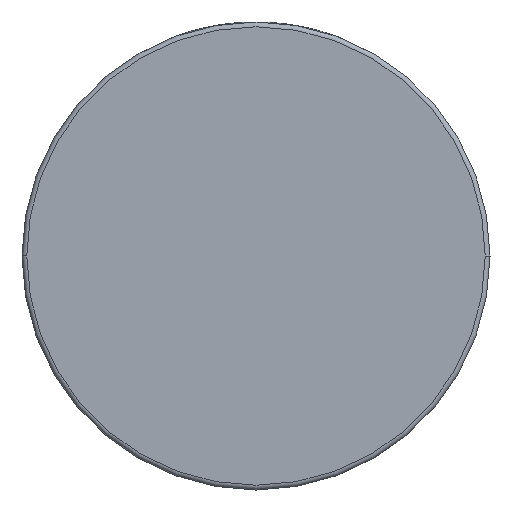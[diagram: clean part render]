
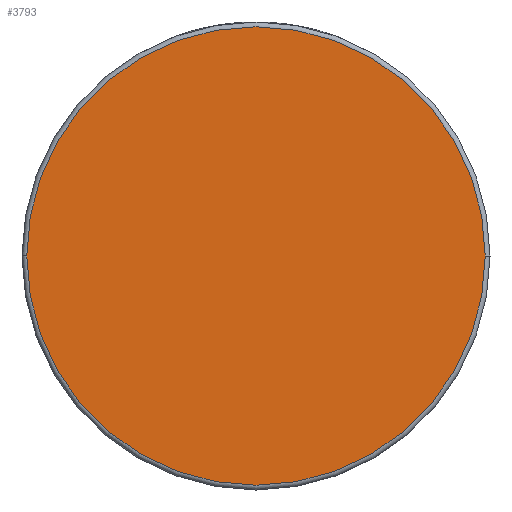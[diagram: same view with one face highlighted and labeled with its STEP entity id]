
A CAD part, front view. The second image highlights one B-rep face of the part: STEP entity #3793.
In plain terms, the highlighted planar face has unit normal (0, -1, 0).
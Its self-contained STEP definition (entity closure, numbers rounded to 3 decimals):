
#56 = DIRECTION ( 'NONE',  ( 1., 0., 0. ) ) ;
#127 = FACE_OUTER_BOUND ( 'NONE', #1417, .T. ) ;
#353 = DIRECTION ( 'NONE',  ( 1., 0., 0. ) ) ;
#365 = DIRECTION ( 'NONE',  ( 0., -1., 0. ) ) ;
#455 = EDGE_CURVE ( 'NONE', #1960, #3952, #604, .T. ) ;
#604 = CIRCLE ( 'NONE', #4128, 48. ) ;
#879 = ORIENTED_EDGE ( 'NONE', *, *, #455, .T. ) ;
#1306 = ORIENTED_EDGE ( 'NONE', *, *, #4250, .T. ) ;
#1417 = EDGE_LOOP ( 'NONE', ( #879, #1306 ) ) ;
#1960 = VERTEX_POINT ( 'NONE', #2347 ) ;
#2102 = AXIS2_PLACEMENT_3D ( 'NONE', #4105, #3820, #2504 ) ;
#2347 = CARTESIAN_POINT ( 'NONE',  ( 48., -31.5, 0. ) ) ;
#2504 = DIRECTION ( 'NONE',  ( 1., 0., 0. ) ) ;
#3365 = CARTESIAN_POINT ( 'NONE',  ( 0., -31.5, 0. ) ) ;
#3376 = CARTESIAN_POINT ( 'NONE',  ( 0., -31.5, 0. ) ) ;
#3427 = PLANE ( 'NONE',  #2102 ) ;
#3560 = CIRCLE ( 'NONE', #4122, 48. ) ;
#3793 = ADVANCED_FACE ( 'NONE', ( #127 ), #3427, .T. ) ;
#3820 = DIRECTION ( 'NONE',  ( 0., -1., 0. ) ) ;
#3952 = VERTEX_POINT ( 'NONE', #4037 ) ;
#4037 = CARTESIAN_POINT ( 'NONE',  ( -48., -31.5, 0. ) ) ;
#4105 = CARTESIAN_POINT ( 'NONE',  ( 49., -31.5, 0. ) ) ;
#4107 = DIRECTION ( 'NONE',  ( 0., -1., 0. ) ) ;
#4122 = AXIS2_PLACEMENT_3D ( 'NONE', #3376, #365, #56 ) ;
#4128 = AXIS2_PLACEMENT_3D ( 'NONE', #3365, #4107, #353 ) ;
#4250 = EDGE_CURVE ( 'NONE', #3952, #1960, #3560, .T. ) ;
